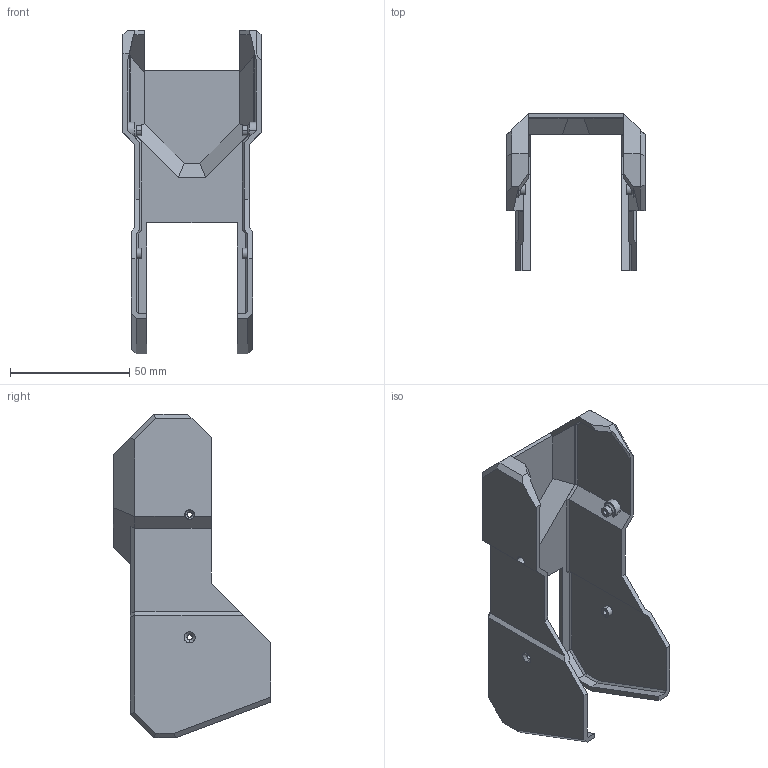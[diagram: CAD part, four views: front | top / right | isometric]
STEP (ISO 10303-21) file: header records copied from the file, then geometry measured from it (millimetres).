
FILE_DESCRIPTION((''),'2;1');
FILE_NAME('OP3_CALF_CASE_VER1','2017-07-24T',('kimdolyang'),(''),'PRO/ENGINEER BY PARAMETRIC TECHNOLOGY CORPORATION, 2013410','PRO/ENGINEER BY PARAMETRIC TECHNOLOGY CORPORATION, 2013410','');
FILE_SCHEMA(('CONFIG_CONTROL_DESIGN'));
Length unit declared in the file: millimetre
Products named in the file (1): OP3_CALF_CASE_VER1
Bounding box: 58 x 66 x 136 mm (x, y, z)
Volume: 31358 mm3; surface area: 33186.8 mm2
Topology: 1 solids, 1 shells, 155 faces, 392 edges, 243 vertices
Faces by surface type: plane 120, cylinder 23, cone 12
Entity records: 4622 total; most frequent: CARTESIAN_POINT 827, ORIENTED_EDGE 784, DIRECTION 754, EDGE_CURVE 392, VECTOR 326, LINE 326, VERTEX_POINT 243, AXIS2_PLACEMENT_3D 214
